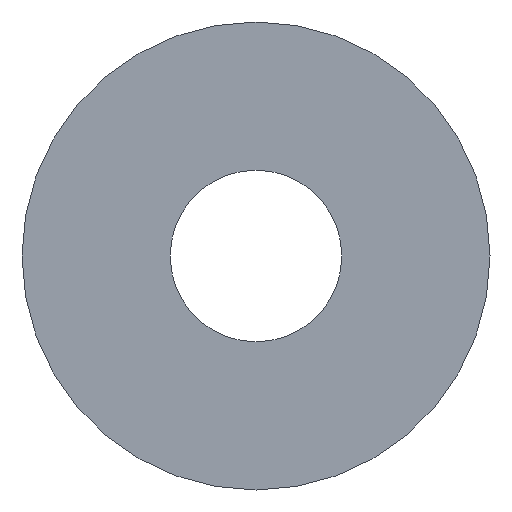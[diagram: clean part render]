
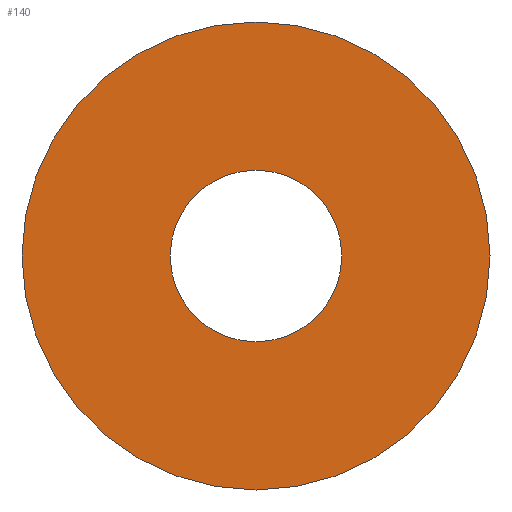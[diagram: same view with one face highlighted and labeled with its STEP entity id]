
A CAD part, front view. The second image highlights one B-rep face of the part: STEP entity #140.
In plain terms, the highlighted planar face has unit normal (0, -1, 0).
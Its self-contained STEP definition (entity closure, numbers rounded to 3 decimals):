
#31 = CYLINDRICAL_SURFACE('',#32,7.5);
#32 = AXIS2_PLACEMENT_3D('',#33,#34,#35);
#33 = CARTESIAN_POINT('',(136.876,304.435,0.));
#34 = DIRECTION('',(0.,1.,0.));
#35 = DIRECTION('',(0.,-0.,1.));
#56 = VERTEX_POINT('',#57);
#57 = CARTESIAN_POINT('',(136.876,304.435,7.5));
#78 = EDGE_CURVE('',#56,#56,#79,.T.);
#79 = SURFACE_CURVE('',#80,(#85,#92),.PCURVE_S1.);
#80 = CIRCLE('',#81,7.5);
#81 = AXIS2_PLACEMENT_3D('',#82,#83,#84);
#82 = CARTESIAN_POINT('',(136.876,304.435,0.));
#83 = DIRECTION('',(0.,1.,0.));
#84 = DIRECTION('',(0.,-0.,1.));
#85 = PCURVE('',#31,#86);
#86 = DEFINITIONAL_REPRESENTATION('',(#87),#91);
#87 = LINE('',#88,#89);
#88 = CARTESIAN_POINT('',(0.,0.));
#89 = VECTOR('',#90,1.);
#90 = DIRECTION('',(1.,0.));
#91 = ( GEOMETRIC_REPRESENTATION_CONTEXT(2) 
PARAMETRIC_REPRESENTATION_CONTEXT() REPRESENTATION_CONTEXT('2D SPACE',''
  ) );
#92 = PCURVE('',#93,#98);
#93 = PLANE('',#94);
#94 = AXIS2_PLACEMENT_3D('',#95,#96,#97);
#95 = CARTESIAN_POINT('',(136.876,304.435,0.));
#96 = DIRECTION('',(0.,1.,0.));
#97 = DIRECTION('',(0.,-0.,1.));
#98 = DEFINITIONAL_REPRESENTATION('',(#99),#103);
#99 = CIRCLE('',#100,7.5);
#100 = AXIS2_PLACEMENT_2D('',#101,#102);
#101 = CARTESIAN_POINT('',(0.,0.));
#102 = DIRECTION('',(1.,0.));
#103 = ( GEOMETRIC_REPRESENTATION_CONTEXT(2) 
PARAMETRIC_REPRESENTATION_CONTEXT() REPRESENTATION_CONTEXT('2D SPACE',''
  ) );
#129 = CYLINDRICAL_SURFACE('',#130,2.75);
#130 = AXIS2_PLACEMENT_3D('',#131,#132,#133);
#131 = CARTESIAN_POINT('',(136.876,303.435,0.));
#132 = DIRECTION('',(0.,1.,0.));
#133 = DIRECTION('',(0.,-0.,1.));
#140 = ADVANCED_FACE('',(#141,#144),#93,.F.);
#141 = FACE_BOUND('',#142,.F.);
#142 = EDGE_LOOP('',(#143));
#143 = ORIENTED_EDGE('',*,*,#78,.T.);
#144 = FACE_BOUND('',#145,.F.);
#145 = EDGE_LOOP('',(#146));
#146 = ORIENTED_EDGE('',*,*,#147,.F.);
#147 = EDGE_CURVE('',#148,#148,#150,.T.);
#148 = VERTEX_POINT('',#149);
#149 = CARTESIAN_POINT('',(136.876,304.435,2.75));
#150 = SURFACE_CURVE('',#151,(#156,#163),.PCURVE_S1.);
#151 = CIRCLE('',#152,2.75);
#152 = AXIS2_PLACEMENT_3D('',#153,#154,#155);
#153 = CARTESIAN_POINT('',(136.876,304.435,0.));
#154 = DIRECTION('',(0.,1.,0.));
#155 = DIRECTION('',(0.,-0.,1.));
#156 = PCURVE('',#93,#157);
#157 = DEFINITIONAL_REPRESENTATION('',(#158),#162);
#158 = CIRCLE('',#159,2.75);
#159 = AXIS2_PLACEMENT_2D('',#160,#161);
#160 = CARTESIAN_POINT('',(0.,0.));
#161 = DIRECTION('',(1.,0.));
#162 = ( GEOMETRIC_REPRESENTATION_CONTEXT(2) 
PARAMETRIC_REPRESENTATION_CONTEXT() REPRESENTATION_CONTEXT('2D SPACE',''
  ) );
#163 = PCURVE('',#129,#164);
#164 = DEFINITIONAL_REPRESENTATION('',(#165),#169);
#165 = LINE('',#166,#167);
#166 = CARTESIAN_POINT('',(0.,1.));
#167 = VECTOR('',#168,1.);
#168 = DIRECTION('',(1.,0.));
#169 = ( GEOMETRIC_REPRESENTATION_CONTEXT(2) 
PARAMETRIC_REPRESENTATION_CONTEXT() REPRESENTATION_CONTEXT('2D SPACE',''
  ) );
